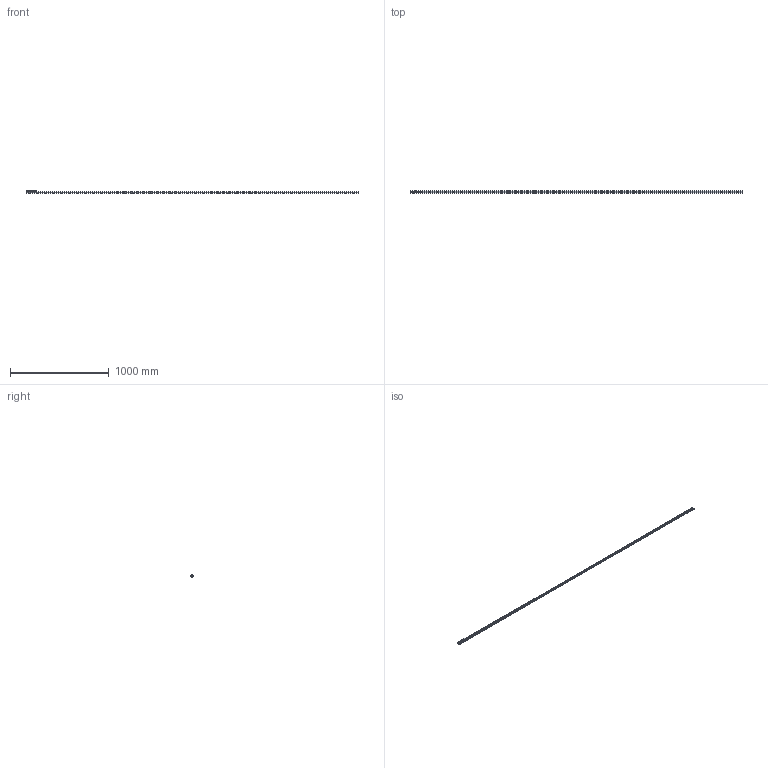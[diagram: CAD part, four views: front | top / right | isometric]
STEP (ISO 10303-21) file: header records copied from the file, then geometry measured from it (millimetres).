
FILE_DESCRIPTION( ( 'STEP AP214' ), '1' );
FILE_NAME( 'p:/temp/worker_22/temp/exporttempdir_996_159_KR2q3/format_1/TEN26-3360-CEN26-92.stp', '2020-05-08T18:55:06', ( 'License CC BY-ND 4.0' ), ( 'CADENAS' ), ' ', 'PARTsolutions', ' ' );
FILE_SCHEMA( ( 'AUTOMOTIVE_DESIGN { 1 0 10303 214 1 1 1 1 }' ) );
Length unit declared in the file: millimetre
Products named in the file (6): TEN26-3360-CEN26-92; _TEN 26-3360; _CEN26-92_1; _RLN26(11.2_M5); _RLA26(11.2_M5); _LAN-26
Assembly tree (8 placements, depth 2):
  TEN26-3360-CEN26-92
    _TEN 26-3360
    _CEN26-92_1
    _RLN26(11.2_M5)  x2
    _RLA26(11.2_M5)
    _LAN-26  x3
Bounding box: 3360 x 26 x 22 mm (x, y, z)
Volume: 360107.4 mm3; surface area: 305686.8 mm2
Topology: 8 solids, 8 shells, 275 faces, 627 edges, 395 vertices
Faces by surface type: plane 131, cylinder 111, cone 24, bspline 9
Full cylindrical faces by diameter (mm): 2.5 x2, 4.134 x5, 4.5 x3, 5 x6, 6.5 x42, 9.3 x3, 11.2 x6, 11.6 x6, 15.7 x6, 16.7 x6
Entity records: 7022 total; most frequent: CARTESIAN_POINT 995, DIRECTION 964, ORIENTED_EDGE 702, AXIS2_PLACEMENT_3D 418, EDGE_LOOP 400, EDGE_CURVE 351, VERTEX_POINT 281, FACE_OUTER_BOUND 268
